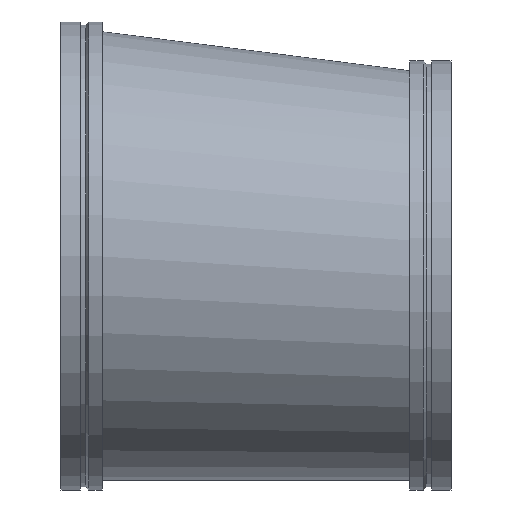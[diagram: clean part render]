
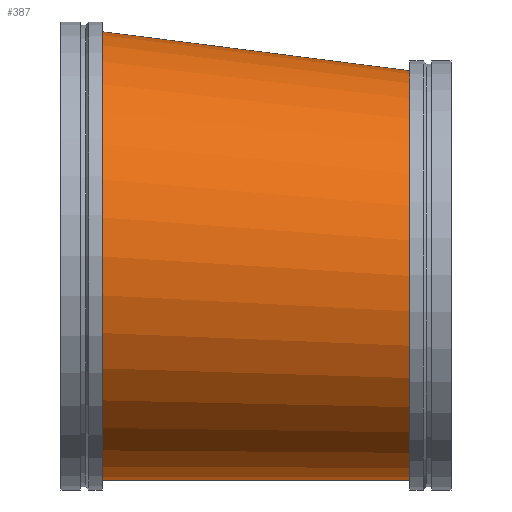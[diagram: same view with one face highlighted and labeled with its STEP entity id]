
A CAD part, top view. The second image highlights one B-rep face of the part: STEP entity #387.
In plain terms, the highlighted free-form (B-spline) face has degree [1, 2] with [2, 9] control points.
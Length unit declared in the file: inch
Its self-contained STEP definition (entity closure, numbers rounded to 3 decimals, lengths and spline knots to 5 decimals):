
#46=B_SPLINE_CURVE_WITH_KNOTS('',1,(#747,#748),.UNSPECIFIED.,.F.,.F.,(2,
2),(-1.3753,-0.00025),.UNSPECIFIED.);
#48=(
BOUNDED_SURFACE()
B_SPLINE_SURFACE(1,2,((#729,#730,#731,#732,#733,#734,#735,#736,#737),(#738,
#739,#740,#741,#742,#743,#744,#745,#746)),.UNSPECIFIED.,.F.,.T.,.F.)
B_SPLINE_SURFACE_WITH_KNOTS((2,2),(3,2,2,2,3),(-0.06324,1.4328),
(-3.14159,-1.5708,0.,1.5708,3.14159),
 .UNSPECIFIED.)
GEOMETRIC_REPRESENTATION_ITEM()
RATIONAL_B_SPLINE_SURFACE(((1.,0.707,1.,0.707,1.,
0.707,1.,0.707,1.),(1.,0.707,1.,0.707,
1.,0.707,1.,0.707,1.)))
REPRESENTATION_ITEM('')
SURFACE()
);
#98=FACE_OUTER_BOUND('',#120,.T.);
#120=EDGE_LOOP('',(#321,#322,#323,#324,#325,#326));
#129=CIRCLE('',#415,21.);
#130=CIRCLE('',#416,21.);
#153=CIRCLE('',#450,23.);
#154=CIRCLE('',#451,23.);
#166=VERTEX_POINT('',#628);
#167=VERTEX_POINT('',#629);
#190=VERTEX_POINT('',#695);
#191=VERTEX_POINT('',#696);
#203=EDGE_CURVE('',#166,#167,#129,.T.);
#204=EDGE_CURVE('',#167,#166,#130,.T.);
#235=EDGE_CURVE('',#190,#191,#153,.T.);
#236=EDGE_CURVE('',#191,#190,#154,.T.);
#243=EDGE_CURVE('',#167,#191,#46,.T.);
#321=ORIENTED_EDGE('',*,*,#203,.T.);
#322=ORIENTED_EDGE('',*,*,#243,.T.);
#323=ORIENTED_EDGE('',*,*,#236,.T.);
#324=ORIENTED_EDGE('',*,*,#235,.T.);
#325=ORIENTED_EDGE('',*,*,#243,.F.);
#326=ORIENTED_EDGE('',*,*,#204,.T.);
#387=ADVANCED_FACE('',(#98),#48,.F.);
#415=AXIS2_PLACEMENT_3D('',#630,#486,#487);
#416=AXIS2_PLACEMENT_3D('',#631,#488,#489);
#450=AXIS2_PLACEMENT_3D('',#697,#564,#565);
#451=AXIS2_PLACEMENT_3D('',#698,#566,#567);
#486=DIRECTION('center_axis',(-1.,0.,0.));
#487=DIRECTION('ref_axis',(0.,-1.,0.));
#488=DIRECTION('center_axis',(-1.,0.,0.));
#489=DIRECTION('ref_axis',(0.,-1.,0.));
#564=DIRECTION('center_axis',(1.,0.,0.));
#565=DIRECTION('ref_axis',(0.,1.,0.));
#566=DIRECTION('center_axis',(1.,0.,0.));
#567=DIRECTION('ref_axis',(0.,1.,0.));
#628=CARTESIAN_POINT('',(35.75,-23.,0.));
#629=CARTESIAN_POINT('',(35.75,-2.08398,20.99983));
#630=CARTESIAN_POINT('Origin',(35.75,-2.,0.));
#631=CARTESIAN_POINT('Origin',(35.75,-2.,0.));
#695=CARTESIAN_POINT('',(4.25,23.,0.));
#696=CARTESIAN_POINT('',(4.25,-0.09198,22.99982));
#697=CARTESIAN_POINT('Origin',(4.25,0.,0.));
#698=CARTESIAN_POINT('Origin',(4.25,0.,0.));
#729=CARTESIAN_POINT('Ctrl Pts',(2.79552,0.,23.09216));
#730=CARTESIAN_POINT('Ctrl Pts',(1.34104,-23.,23.09216));
#731=CARTESIAN_POINT('Ctrl Pts',(1.34104,-23.,0.));
#732=CARTESIAN_POINT('Ctrl Pts',(1.34104,-23.,-23.09216));
#733=CARTESIAN_POINT('Ctrl Pts',(2.79552,0.,
-23.09216));
#734=CARTESIAN_POINT('Ctrl Pts',(4.25,23.,-23.09216));
#735=CARTESIAN_POINT('Ctrl Pts',(4.25,23.,0.));
#736=CARTESIAN_POINT('Ctrl Pts',(4.25,23.,23.09216));
#737=CARTESIAN_POINT('Ctrl Pts',(2.79552,0.,23.09216));
#738=CARTESIAN_POINT('Ctrl Pts',(37.06742,-2.16729,20.91619));
#739=CARTESIAN_POINT('Ctrl Pts',(35.75,-23.,20.91619));
#740=CARTESIAN_POINT('Ctrl Pts',(35.75,-23.,0.));
#741=CARTESIAN_POINT('Ctrl Pts',(35.75,-23.,-20.91619));
#742=CARTESIAN_POINT('Ctrl Pts',(37.06742,-2.16729,-20.91619));
#743=CARTESIAN_POINT('Ctrl Pts',(38.38484,18.66542,-20.91619));
#744=CARTESIAN_POINT('Ctrl Pts',(38.38484,18.66542,0.));
#745=CARTESIAN_POINT('Ctrl Pts',(38.38484,18.66542,20.91619));
#746=CARTESIAN_POINT('Ctrl Pts',(37.06742,-2.16729,20.91619));
#747=CARTESIAN_POINT('Ctrl Pts',(35.75,-2.08398,20.99983));
#748=CARTESIAN_POINT('Ctrl Pts',(4.25,-0.09198,22.99982));
